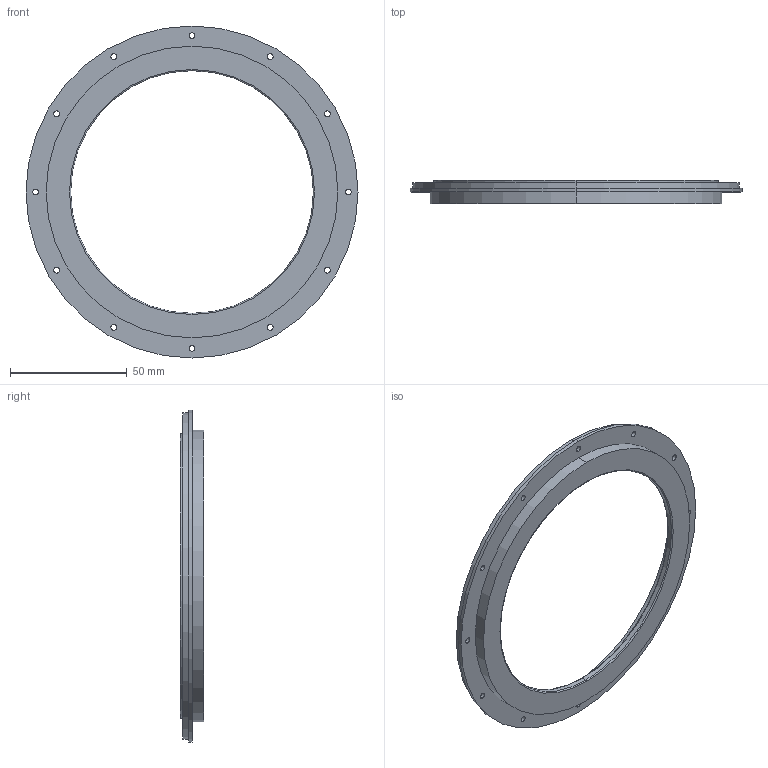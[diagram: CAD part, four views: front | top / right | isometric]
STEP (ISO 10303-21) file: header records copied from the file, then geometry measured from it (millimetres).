
FILE_DESCRIPTION (( 'STEP AP203' ), '1' );
FILE_NAME ('rotor2.STEP', '2024-07-01T06:34:47', ( '' ), ( '' ), 'SwSTEP 2.0', 'SolidWorks 2021', '' );
FILE_SCHEMA (( 'CONFIG_CONTROL_DESIGN' ));
Length unit declared in the file: millimetre
Products named in the file (1): rotor2
Bounding box: 142.3 x 10 x 142.3 mm (x, y, z)
Volume: 29363.2 mm3; surface area: 23775.5 mm2
Topology: 1 solids, 1 shells, 52 faces, 128 edges, 84 vertices
Faces by surface type: cylinder 40, plane 8, torus 4
Entity records: 1717 total; most frequent: DIRECTION 322, CARTESIAN_POINT 265, ORIENTED_EDGE 256, AXIS2_PLACEMENT_3D 141, EDGE_CURVE 128, CIRCLE 88, EDGE_LOOP 84, VERTEX_POINT 84
